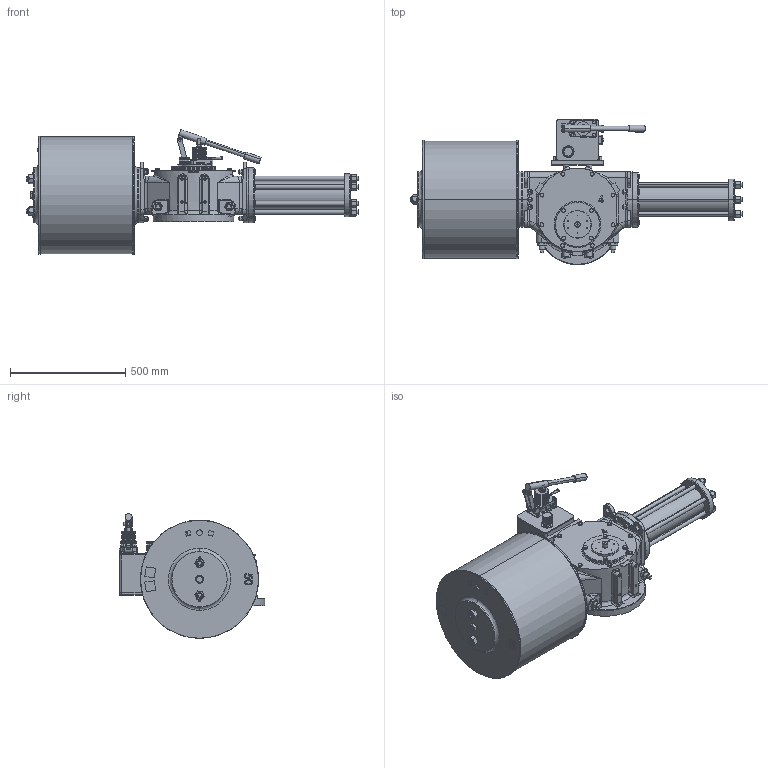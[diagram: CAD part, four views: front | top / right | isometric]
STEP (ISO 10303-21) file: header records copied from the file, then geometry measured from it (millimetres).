
FILE_DESCRIPTION (( 'STEP AP203' ), '1' );
FILE_NAME ('VTS4-500-MH.STEP', '2023-01-01T09:34:46', ( '' ), ( '' ), 'SwSTEP 2.0', 'SolidWorks 2020', '' );
FILE_SCHEMA (( 'CONFIG_CONTROL_DESIGN' ));
Length unit declared in the file: millimetre
Products named in the file (1): VTS4-500-MH
Bounding box: 1442 x 631.4 x 542.27 mm (x, y, z)
Volume: 124624683.6 mm3; surface area: 3193758.3 mm2
Topology: 71 solids, 74 shells, 2890 faces, 7083 edges, 4477 vertices
Faces by surface type: plane 1207, cylinder 943, cone 614, bspline 122, torus 4
Entity records: 99695 total; most frequent: CARTESIAN_POINT 31827, DIRECTION 14259, ORIENTED_EDGE 14054, EDGE_CURVE 7027, AXIS2_PLACEMENT_3D 5573, VERTEX_POINT 4477, EDGE_LOOP 3276, LINE 3113
